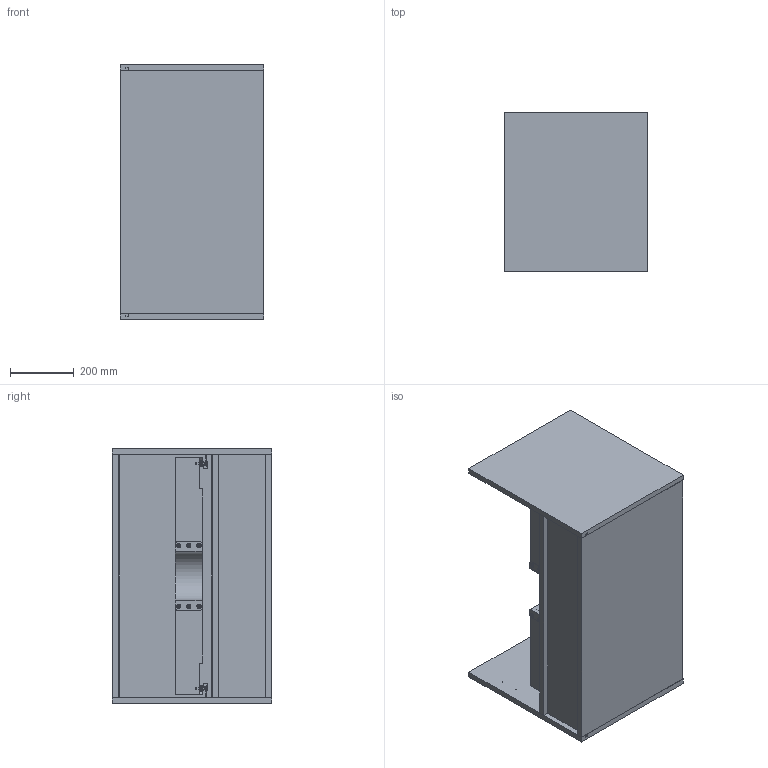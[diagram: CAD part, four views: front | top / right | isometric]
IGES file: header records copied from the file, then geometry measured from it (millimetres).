
Global section: file name: 3D Dosyası,; native system: Autodesk Inventor 2024; preprocessor: unknown; author: pc19; date: 20240716.145643; units: millimetre
Bounding box: 450 x 500 x 800 mm (x, y, z)
Volume: 29450890.7 mm3; surface area: 4493754.1 mm2
Topology: 21 solids, 21 shells, 682 faces, 1893 edges, 1297 vertices
Faces by surface type: bspline 682
